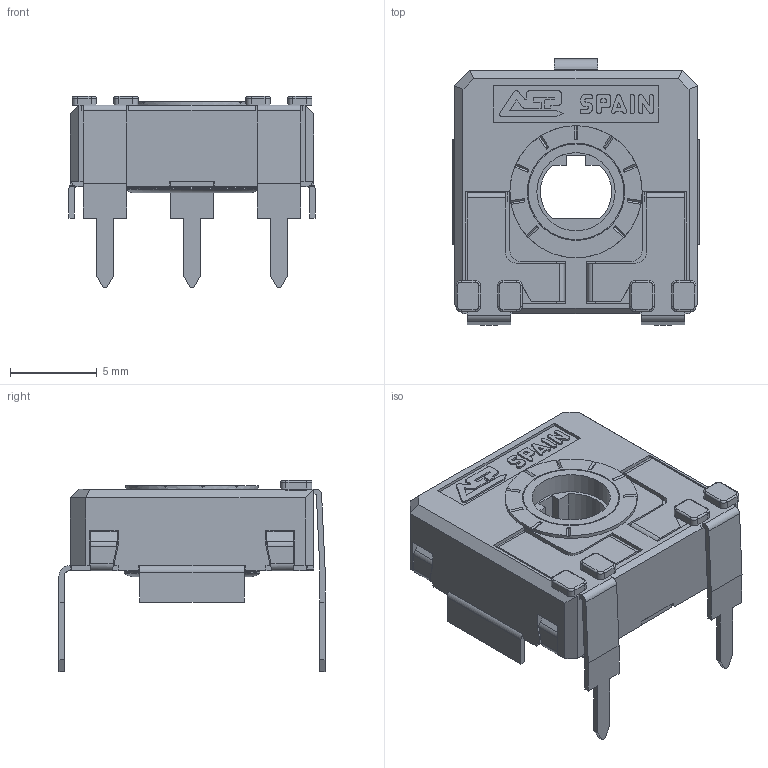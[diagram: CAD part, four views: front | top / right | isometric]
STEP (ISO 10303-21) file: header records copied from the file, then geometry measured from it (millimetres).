
FILE_DESCRIPTION(/* description */ (''),/* implementation_level */ '2;1');
FILE_NAME(/* name */ 'C:\Users\CEM\Desktop\ENVIAR\TRANSICION 3D CATALOGOS\RS14TV15 CFF.stp',/* time_stamp */ '2025-12-10T11:29:19+01:00',/* author */ ('CEM'),/* organization */ (''),/* preprocessor_version */ 'ST-DEVELOPER v16.13',/* originating_system */ 'Autodesk Inventor 2018',/* authorisation */ '');
FILE_SCHEMA (('AUTOMOTIVE_DESIGN { 1 0 10303 214 3 1 1 }'));
Length unit declared in the file: millimetre
Products named in the file (1): CARCASA CA14 PGA
Bounding box: 14.15 x 15.3 x 11 mm (x, y, z)
Volume: 530.9 mm3; surface area: 1524.6 mm2
Topology: 1 solids, 1 shells, 685 faces, 1930 edges, 1242 vertices
Faces by surface type: plane 505, cylinder 143, torus 23, bspline 8, cone 6
Full cylindrical faces by diameter (mm): 4.5 x1, 5.5 x1, 5.6 x1, 5.752 x1, 6.8 x1, 7.6 x1
Entity records: 22207 total; most frequent: CARTESIAN_POINT 4052, ORIENTED_EDGE 3832, DIRECTION 3616, EDGE_CURVE 1916, LINE 1516, VECTOR 1516, VERTEX_POINT 1238, AXIS2_PLACEMENT_3D 1050
